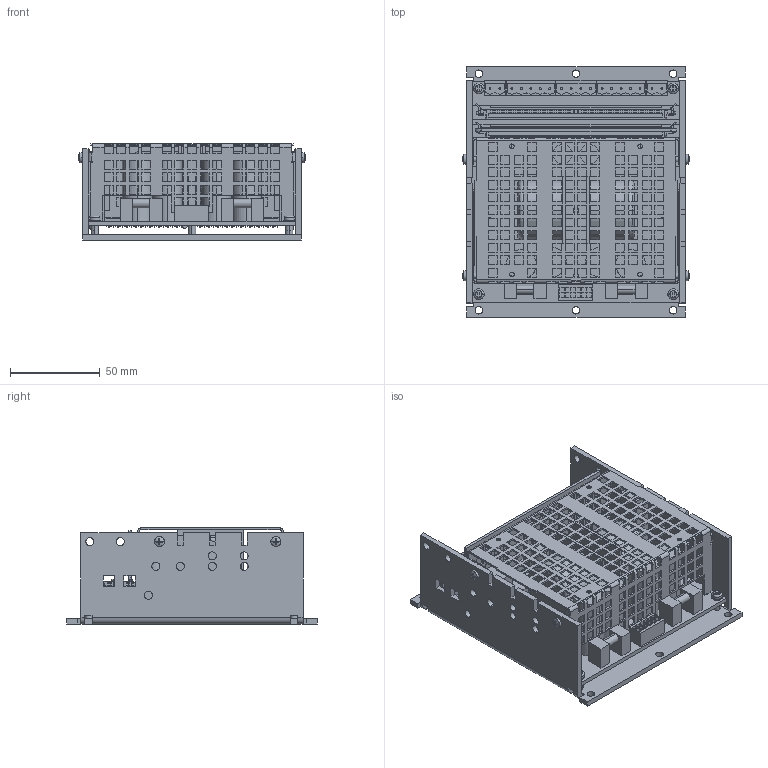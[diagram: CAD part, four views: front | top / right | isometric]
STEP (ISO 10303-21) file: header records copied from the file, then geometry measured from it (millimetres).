
FILE_DESCRIPTION((''),'2;1');
FILE_NAME('POWERSOFT_DM_1000_NPS_MECH3D_ASM','2012-03-10T',('carlo'),(''),'PRO/ENGINEER BY PARAMETRIC TECHNOLOGY CORPORATION, 2010480','PRO/ENGINEER BY PARAMETRIC TECHNOLOGY CORPORATION, 2010480','');
FILE_SCHEMA(('CONFIG_CONTROL_DESIGN'));
Products named in the file (16): ME000XXX; ME000314; CONTROL_VER01_REV00-280; SIMM_SOCKET-294; SIMM_SOCKET-308; DGM2AMMAIN13-322; DGM2AMMAIN13-252_ASM; ASM0001_ASM; DISTANZIALE_M3_X_8; ROSETTA_3_2X6_UNI6592-A2; VITE_M3X6_UNI7687; CONNETTORI_1000; PIN; DIGIMOD1000_NPS_ASM; VITE_ISO7049-ST2_9X6_5_5-F-Z_Q; POWERSOFT_DM_1000_NPS_MECH3D_ASM
Assembly tree (30 placements, depth 5):
  POWERSOFT_DM_1000_NPS_MECH3D_ASM
    DIGIMOD1000_NPS_ASM
      ASM0001_ASM
        ME000XXX
        ME000314
        DGM2AMMAIN13-252_ASM
          CONTROL_VER01_REV00-280
          SIMM_SOCKET-294
          SIMM_SOCKET-308
          DGM2AMMAIN13-322
      DISTANZIALE_M3_X_8  x7
      ROSETTA_3_2X6_UNI6592-A2  x4
      VITE_M3X6_UNI7687  x4
      CONNETTORI_1000
      PIN
    VITE_ISO7049-ST2_9X6_5_5-F-Z_Q  x4
Bounding box: 126.78 x 140 x 53.6 mm (x, y, z)
Volume: 253463.8 mm3; surface area: 177373.3 mm2
Topology: 48 solids, 48 shells, 5241 faces, 14101 edges, 9372 vertices
Faces by surface type: plane 4377, cylinder 808, cone 28, torus 20, sphere 8
Entity records: 158302 total; most frequent: CARTESIAN_POINT 27914, ORIENTED_EDGE 27238, DIRECTION 25535, EDGE_CURVE 13619, VECTOR 11865, LINE 11865, VERTEX_POINT 9063, AXIS2_PLACEMENT_3D 6835
